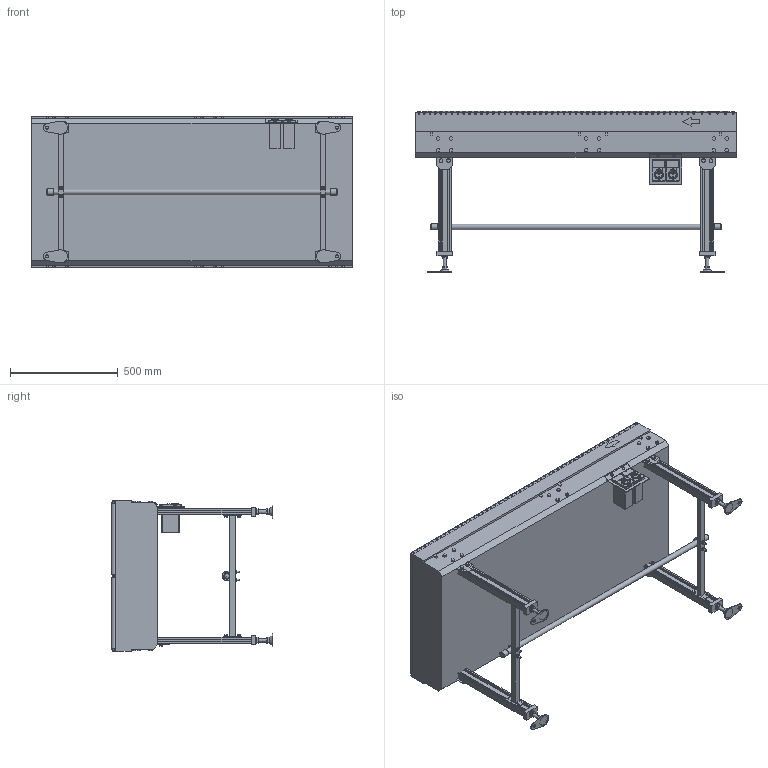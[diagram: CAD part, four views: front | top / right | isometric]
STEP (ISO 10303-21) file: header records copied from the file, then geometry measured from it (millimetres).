
FILE_DESCRIPTION (( 'STEP AP214' ), '1' );
FILE_NAME ('GA22-304x2-600-150-DC-7.5.STEP', '2024-08-08T23:13:04', ( '' ), ( '' ), 'SwSTEP 2.0', 'SolidWorks 2017', '' );
FILE_SCHEMA (( 'AUTOMOTIVE_DESIGN' ));
Length unit declared in the file: millimetre
Products named in the file (1): GA22-304x2-600-150-DC-7.5
Bounding box: 1490 x 750 x 704.54 mm (x, y, z)
Volume: 221427590.8 mm3; surface area: 6690979.2 mm2
Topology: 19 solids, 19 shells, 2515 faces, 6272 edges, 4158 vertices
Faces by surface type: plane 1754, cylinder 727, cone 18, torus 16
Full cylindrical faces by diameter (mm): 4.5 x8, 6 x106, 7 x4, 8 x212, 8.723 x8, 12.2 x2, 13 x4, 15.4 x40, 16 x8, 17 x12, 25.4 x1, 28.4 x2, 29.825 x2, 30 x4
Entity records: 71117 total; most frequent: CARTESIAN_POINT 14287, DIRECTION 11415, ORIENTED_EDGE 11202, EDGE_CURVE 5601, VERTEX_POINT 3926, AXIS2_PLACEMENT_3D 3820, LINE 3775, VECTOR 3775
